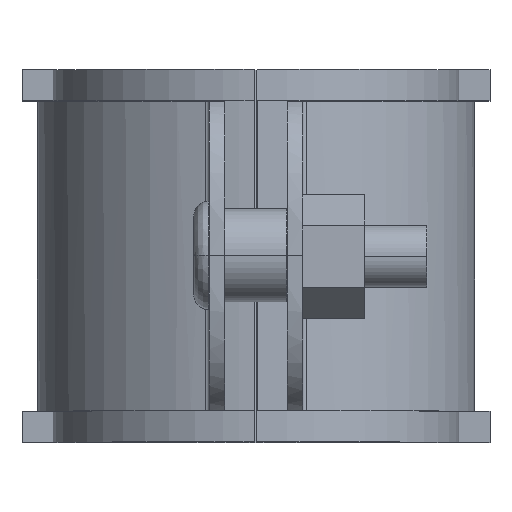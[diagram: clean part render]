
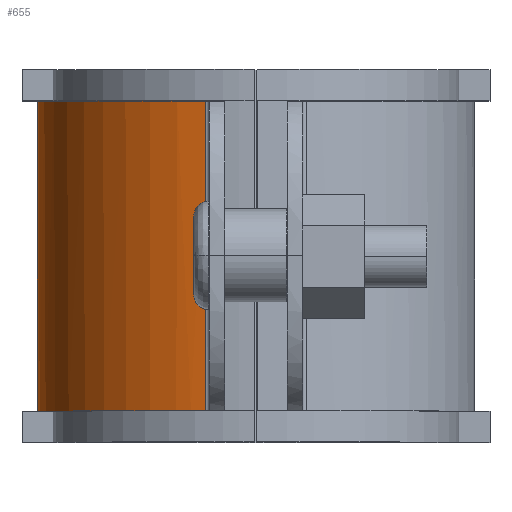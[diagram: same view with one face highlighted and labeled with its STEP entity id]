
A CAD part, top view. The second image highlights one B-rep face of the part: STEP entity #655.
In plain terms, the highlighted free-form (B-spline) face has degree [3, 1] with [4, 2] control points.
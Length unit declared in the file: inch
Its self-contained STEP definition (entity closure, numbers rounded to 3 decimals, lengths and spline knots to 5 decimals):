
#409=EDGE_CURVE('',#1073,#1074,#1075,.T.);
#601=EDGE_CURVE('',#1074,#1361,#1362,.T.);
#655=ADVANCED_FACE('',(#1441),#1442,.T.);
#799=EDGE_CURVE('',#1318,#1361,#1634,.T.);
#853=EDGE_CURVE('',#1318,#1073,#1700,.T.);
#1073=VERTEX_POINT('',#2066);
#1074=VERTEX_POINT('',#2067);
#1075=LINE('',#2068,#2069);
#1318=VERTEX_POINT('',#2583);
#1361=VERTEX_POINT('',#2722);
#1362=B_SPLINE_CURVE_WITH_KNOTS('',3,(#2723,#2724,#2725,#2726),.UNSPECIFIED.,.F.,.F.,(4,4),(0.0,1.0),.UNSPECIFIED.);
#1441=FACE_OUTER_BOUND('',#2850,.T.);
#1442=B_SPLINE_SURFACE_WITH_KNOTS('',3,1,((#2851,#2852),(#2853,#2854),(#2855,#2856),(#2857,#2858)),.UNSPECIFIED.,.F.,.F.,.F.,(4,4),(2,2),(-1.0,-0.0),(0.0,1.25),.UNSPECIFIED.);
#1634=LINE('',#3256,#3257);
#1700=B_SPLINE_CURVE_WITH_KNOTS('',3,(#3390,#3391,#3392,#3393),.UNSPECIFIED.,.F.,.F.,(4,4),(-1.0,-0.0),.UNSPECIFIED.);
#2066=CARTESIAN_POINT('',(0.0,1.24627,1.56152));
#2067=CARTESIAN_POINT('',(0.0,0.0,1.56152));
#2068=CARTESIAN_POINT('',(0.0,1.25,1.56152));
#2069=VECTOR('',#3746,1.0);
#2583=CARTESIAN_POINT('',(0.67864,1.24627,2.41913));
#2722=CARTESIAN_POINT('',(0.67864,0.0,2.41913));
#2723=CARTESIAN_POINT('',(0.0,0.0,1.56152));
#2724=CARTESIAN_POINT('',(0.0,0.0,1.97843));
#2725=CARTESIAN_POINT('',(0.28961,0.0,2.32777));
#2726=CARTESIAN_POINT('',(0.67864,0.0,2.41913));
#2850=EDGE_LOOP('',(#4306,#4307,#4308,#4309));
#2851=CARTESIAN_POINT('',(0.67864,1.25,2.41913));
#2852=CARTESIAN_POINT('',(0.67864,0.0,2.41913));
#2853=CARTESIAN_POINT('',(0.28961,1.25,2.32777));
#2854=CARTESIAN_POINT('',(0.28961,0.0,2.32777));
#2855=CARTESIAN_POINT('',(0.0,1.25,1.97843));
#2856=CARTESIAN_POINT('',(0.0,0.0,1.97843));
#2857=CARTESIAN_POINT('',(0.0,1.25,1.56152));
#2858=CARTESIAN_POINT('',(0.0,0.0,1.56152));
#3256=CARTESIAN_POINT('',(0.67864,1.25,2.41913));
#3257=VECTOR('',#4629,1.0);
#3390=CARTESIAN_POINT('',(0.67864,1.24627,2.41913));
#3391=CARTESIAN_POINT('',(0.28961,1.24627,2.32777));
#3392=CARTESIAN_POINT('',(0.0,1.24627,1.97843));
#3393=CARTESIAN_POINT('',(0.0,1.24627,1.56152));
#3746=DIRECTION('',(0.0,-1.0,0.0));
#4306=ORIENTED_EDGE('',*,*,#853,.T.);
#4307=ORIENTED_EDGE('',*,*,#409,.T.);
#4308=ORIENTED_EDGE('',*,*,#601,.T.);
#4309=ORIENTED_EDGE('',*,*,#799,.F.);
#4629=DIRECTION('',(0.0,-1.0,0.0));
